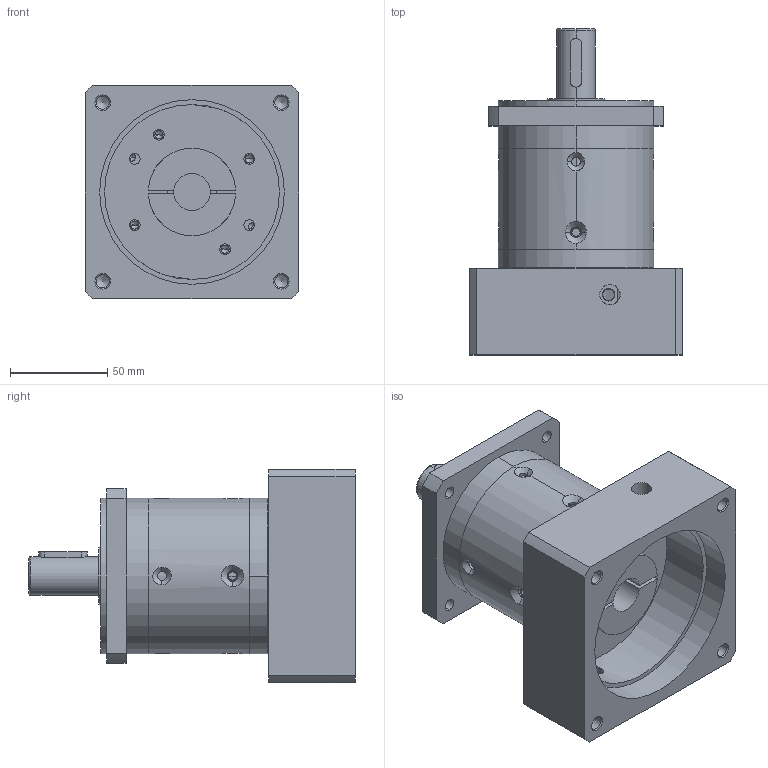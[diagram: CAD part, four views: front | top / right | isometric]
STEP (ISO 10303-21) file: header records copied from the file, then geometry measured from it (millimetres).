
FILE_DESCRIPTION(/* description */ (''),/* implementation_level */ '2;1');
FILE_NAME(/* name */ 'WPF080-L1-B-95-130-M8-19-41-边110.stp',/* time_stamp */ '2022-06-15T11:38:56+08:00',/* author */ (''),/* organization */ (''),/* preprocessor_version */ 'ST-DEVELOPER v16.7',/* originating_system */ 'SIEMENS PLM Software NX 12.0',/* authorisation */ '');
FILE_SCHEMA (('AUTOMOTIVE_DESIGN { 1 0 10303 214 3 1 1 1 }'));
Length unit declared in the file: millimetre
Products named in the file (8): 内齿圈-WPF080-RING-L193; 行星底座-WAB090-DZ(750W)-(19-41-70-90-M6
); WPF080-RING-L1; 行星法兰-WPF080-FL95; 行星后盖-WPF080-HG-S1-(50260166)A96; WPF080-RING-L197; DZ; WPF080-L1-B-标准75B_stp
Assembly tree (7 placements, depth 3):
  WPF080-L1-B-标准75B_stp
    DZ
      WPF080-RING-L1
      行星底座-WAB090-DZ(750W)-(19-41-70-90-M6
)
    WPF080-RING-L197
      内齿圈-WPF080-RING-L193
    行星后盖-WPF080-HG-S1-(50260166)A96
    行星法兰-WPF080-FL95
Bounding box: 110 x 167.9 x 110 mm (x, y, z)
Volume: 697050.4 mm3; surface area: 147598.4 mm2
Topology: 4 solids, 4 shells, 270 faces, 740 edges, 458 vertices
Faces by surface type: cylinder 145, cone 67, plane 52, torus 6
Full cylindrical faces by diameter (mm): 6 x1, 6.8 x4, 45 x1, 90 x1, 95 x1
Entity records: 9587 total; most frequent: CARTESIAN_POINT 2556, DIRECTION 1499, ORIENTED_EDGE 1380, EDGE_CURVE 690, AXIS2_PLACEMENT_3D 611, VERTEX_POINT 454, EDGE_LOOP 359, CIRCLE 333
